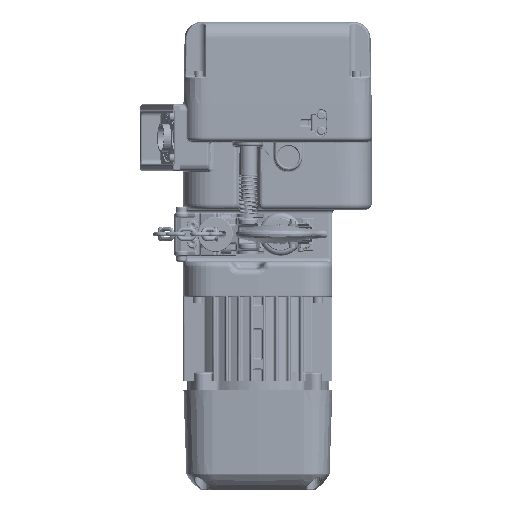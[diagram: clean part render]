
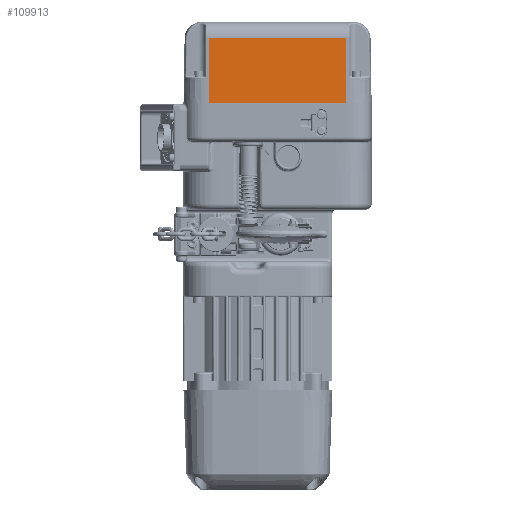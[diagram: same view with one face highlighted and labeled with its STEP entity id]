
A CAD part, front view. The second image highlights one B-rep face of the part: STEP entity #109913.
In plain terms, the highlighted planar face has unit normal (0, -1, 0.018).
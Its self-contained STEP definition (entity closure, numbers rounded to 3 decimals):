
#3588 = ORIENTED_EDGE ( 'NONE', *, *, #85825, .T. ) ;
#8010 = VERTEX_POINT ( 'NONE', #78768 ) ;
#11973 = CARTESIAN_POINT ( 'NONE',  ( 0., -82.343, 66.297 ) ) ;
#19714 = EDGE_CURVE ( 'NONE', #103317, #94168, #36689, .T. ) ;
#22982 = CARTESIAN_POINT ( 'NONE',  ( 69.847, -82.343, 66.297 ) ) ;
#28185 = VECTOR ( 'NONE', #124881, 1000. ) ;
#30959 = DIRECTION ( 'NONE',  ( 0., -0.017, -1. ) ) ;
#36689 = LINE ( 'NONE', #11973, #28185 ) ;
#39110 = VECTOR ( 'NONE', #92273, 1000. ) ;
#41056 = CARTESIAN_POINT ( 'NONE',  ( 69.847, -83.5, 0. ) ) ;
#44117 = LINE ( 'NONE', #133120, #45758 ) ;
#45758 = VECTOR ( 'NONE', #30959, 1000. ) ;
#49285 = EDGE_CURVE ( 'NONE', #8010, #105919, #56752, .T. ) ;
#53716 = ORIENTED_EDGE ( 'NONE', *, *, #19714, .T. ) ;
#56332 = ORIENTED_EDGE ( 'NONE', *, *, #148655, .F. ) ;
#56752 = LINE ( 'NONE', #132581, #39110 ) ;
#78768 = CARTESIAN_POINT ( 'NONE',  ( 69.847, -83.5, 0. ) ) ;
#85825 = EDGE_CURVE ( 'NONE', #94168, #105919, #44117, .T. ) ;
#87558 = AXIS2_PLACEMENT_3D ( 'NONE', #111794, #135711, #148922 ) ;
#88714 = FACE_OUTER_BOUND ( 'NONE', #141694, .T. ) ;
#92273 = DIRECTION ( 'NONE',  ( -1., 0., 0. ) ) ;
#94168 = VERTEX_POINT ( 'NONE', #157808 ) ;
#98451 = CARTESIAN_POINT ( 'NONE',  ( -69.847, -83.5, 0. ) ) ;
#98637 = ORIENTED_EDGE ( 'NONE', *, *, #49285, .F. ) ;
#101291 = DIRECTION ( 'NONE',  ( 0., -0.017, -1. ) ) ;
#103317 = VERTEX_POINT ( 'NONE', #22982 ) ;
#104540 = LINE ( 'NONE', #41056, #106161 ) ;
#105919 = VERTEX_POINT ( 'NONE', #98451 ) ;
#106161 = VECTOR ( 'NONE', #101291, 1000. ) ;
#109913 = ADVANCED_FACE ( 'NONE', ( #88714 ), #152198, .T. ) ;
#111794 = CARTESIAN_POINT ( 'NONE',  ( 0., -83.5, 0. ) ) ;
#124881 = DIRECTION ( 'NONE',  ( -1., 0., 0. ) ) ;
#132581 = CARTESIAN_POINT ( 'NONE',  ( 0., -83.5, 0. ) ) ;
#133120 = CARTESIAN_POINT ( 'NONE',  ( -69.847, -83.5, 0. ) ) ;
#135711 = DIRECTION ( 'NONE',  ( 0., -1., 0.017 ) ) ;
#141694 = EDGE_LOOP ( 'NONE', ( #56332, #53716, #3588, #98637 ) ) ;
#148655 = EDGE_CURVE ( 'NONE', #103317, #8010, #104540, .T. ) ;
#148922 = DIRECTION ( 'NONE',  ( 0., -0.017, -1. ) ) ;
#152198 = PLANE ( 'NONE',  #87558 ) ;
#157808 = CARTESIAN_POINT ( 'NONE',  ( -69.847, -82.343, 66.297 ) ) ;
